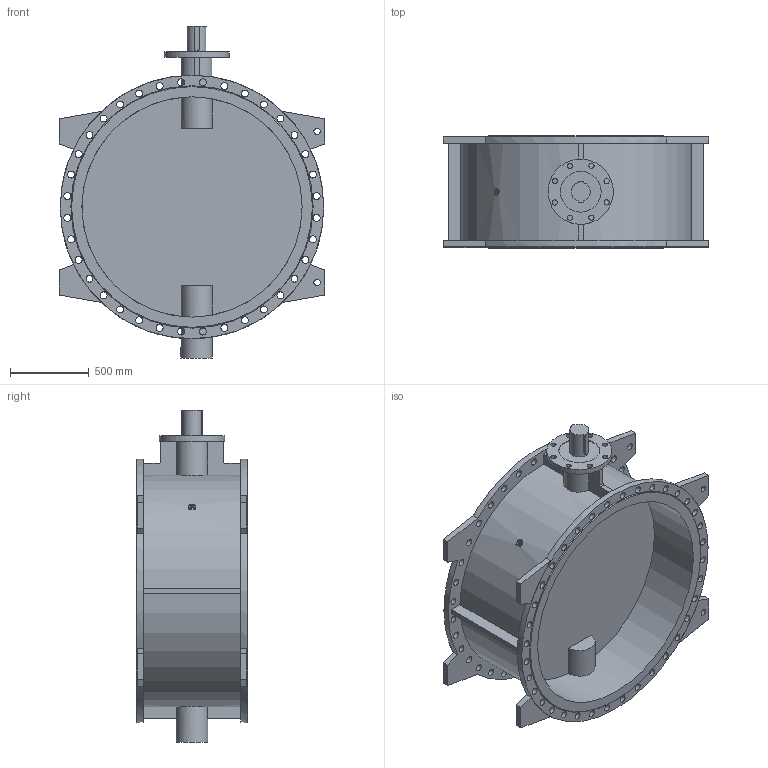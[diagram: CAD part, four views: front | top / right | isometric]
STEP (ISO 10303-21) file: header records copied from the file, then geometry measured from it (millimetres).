
FILE_DESCRIPTION(('STEP AP203'), '1');
FILE_NAME('Çàòâîð 023F.Z DN1400 PN10_èñï', '', ('UNSPECIFIED'), ('UNSPECIFIED'), 'ASCON STEP Converter 1.6', 'ASCON Math Kernel', '');
FILE_SCHEMA(('CONFIG_CONTROL_DESIGN'));
Length unit declared in the file: millimetre
Bounding box: 1690 x 710 x 2110 mm (x, y, z)
Volume: 354150691.7 mm3; surface area: 13188702.4 mm2
Topology: 1 solids, 1 shells, 196 faces, 546 edges, 364 vertices
Faces by surface type: cylinder 111, plane 83, cone 2
Full cylindrical faces by diameter (mm): 33 x8, 40 x4, 44 x72, 120 x1, 200 x1, 260 x1, 415 x1, 1400 x2, 1675 x2
Entity records: 8919 total; most frequent: CARTESIAN_POINT 2113, DIRECTION 1062, ORIENTED_EDGE 904, EDGE_LOOP 470, EDGE_CURVE 452, AXIS2_PLACEMENT_3D 432, VERTEX_POINT 364, FACE_BOUND 287
